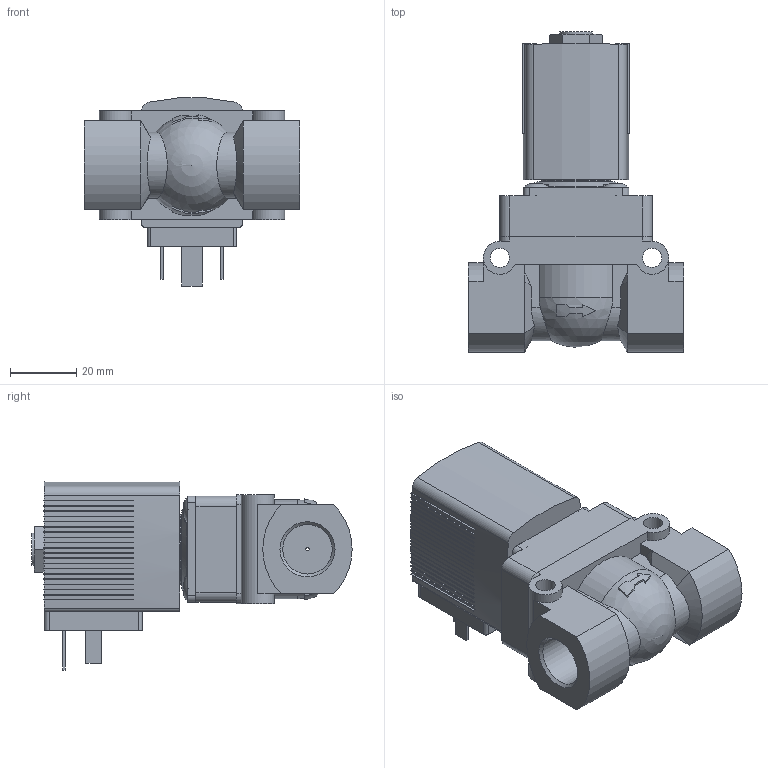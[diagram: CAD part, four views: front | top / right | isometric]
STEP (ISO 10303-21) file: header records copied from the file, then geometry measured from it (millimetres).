
FILE_DESCRIPTION(/* description */ ('STEP AP214'),/* implementation_level */ '2;1');
FILE_NAME(/* name */ '5404-301681-Servo-assisted_2_2_way_piston_valve',/* time_stamp */ '2024-02-27T12:11:27+01:00',/* author */ ('License CC BY-ND 4.0'),/* organization */ ('CADENAS'),/* preprocessor_version */ 'ST-DEVELOPER v19.3',/* originating_system */ 'PARTsolutions',/* authorisation */ ' ');
FILE_SCHEMA (('AUTOMOTIVE_DESIGN {1 0 10303 214 3 1 1}'));
Length unit declared in the file: millimetre
Products named in the file (4): 5404-301681-Servo-assisted 2/2 way piston valve; 5282g-8312MS000-2/2-Wege-Magnetventil_Gehaeuse; 5282d-12MSAU3N-2/2-Wege-Magnetventil_Deckel; AC10ex-5OO-Plan-Coil
Assembly tree (3 placements, depth 2):
  5404-301681-Servo-assisted 2/2 way piston valve
    5282g-8312MS000-2/2-Wege-Magnetventil_Gehaeuse
    5282d-12MSAU3N-2/2-Wege-Magnetventil_Deckel
    AC10ex-5OO-Plan-Coil
Bounding box: 65 x 96.8 x 56.84 mm (x, y, z)
Volume: 123906.9 mm3; surface area: 28545.2 mm2
Topology: 3 solids, 3 shells, 432 faces, 1196 edges, 790 vertices
Faces by surface type: plane 351, cylinder 57, cone 16, torus 5, sphere 3
Full cylindrical faces by diameter (mm): 1 x1, 2.013 x1, 4 x4, 5.8 x2, 7.5 x4, 7.6 x4, 9.74 x1, 14.95 x2, 21 x1
Entity records: 15701 total; most frequent: CARTESIAN_POINT 2500, ORIENTED_EDGE 2312, DIRECTION 2262, EDGE_CURVE 1156, LINE 858, VECTOR 858, VERTEX_POINT 780, AXIS2_PLACEMENT_3D 702
